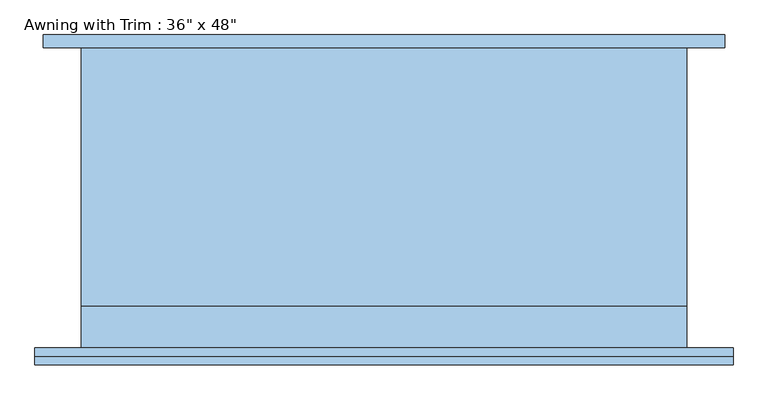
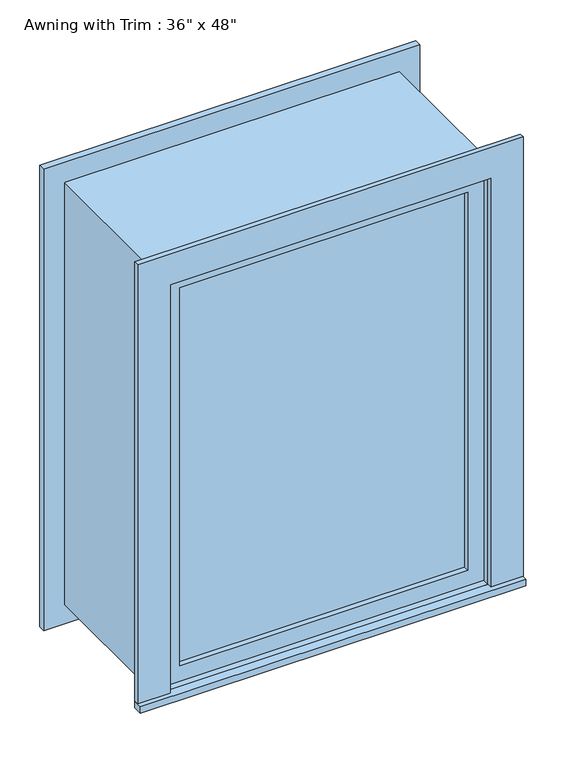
"""IFC4 building model written with IfcOpenShell, lengths in millimetres: window geometry."""

from ifc_helpers import new_model, si_unit, frame, origin, place, context, project, spatial, polyline, outline, extrude, source, transform, mapped, element, save


def window_29cdd4cc(model_context):
    return source(origin(), model_context, "Body", "SweptSolid", [
        extrude(outline(polyline([(-527.05, -252.4125), (-527.05, -227.0125), (527.05, -227.0125), (527.05, -252.4125), (-527.05, -252.4125)])), frame((0.0, 0.0, 914.4), z_axis=(0.0, 0.0, 1.0), x_axis=(1.0, 0.0, 0.0)), (0.0, 0.0, 1.0), 19.05),
        extrude(outline(polyline([(2114.55, -438.15), (2114.55, 438.15), (933.45, 438.15), (933.45, 527.05), (2203.45, 527.05), (2203.45, -527.05), (933.45, -527.05), (933.45, -438.15), (2114.55, -438.15)])), frame((0.0, -239.7125, 0.0), z_axis=(0.0, 1.0, 0.0), x_axis=(0.0, 0.0, 1.0)), (0.0, 0.0, 1.0), 12.7),
        extrude(outline(polyline([(2190.75, 514.35), (2190.75, -514.35), (857.25, -514.35), (857.25, 514.35), (2190.75, 514.35)]), holes=[polyline([(2101.85, 425.45), (946.15, 425.45), (946.15, -425.45), (2101.85, -425.45), (2101.85, 425.45)])]), frame((0.0, 227.0125, 0.0), z_axis=(0.0, 1.0, 0.0), x_axis=(0.0, 0.0, 1.0)), (0.0, 0.0, 1.0), 19.05),
        extrude(outline(polyline([(393.7, -179.3875), (393.7, -192.0875), (-393.7, -192.0875), (-393.7, -179.3875), (393.7, -179.3875)])), frame((0.0, 0.0, 977.9), z_axis=(0.0, 0.0, 1.0), x_axis=(1.0, 0.0, 0.0)), (0.0, 0.0, 1.0), 1092.2),
        extrude(outline(polyline([(2114.55, -438.15), (933.45, -438.15), (933.45, 438.15), (2114.55, 438.15), (2114.55, -438.15)]), holes=[polyline([(2070.1, -393.7), (2070.1, 393.7), (977.9, 393.7), (977.9, -393.7), (2070.1, -393.7)])]), frame((0.0, -207.9625, 0.0), z_axis=(0.0, 1.0, 0.0), x_axis=(0.0, 0.0, 1.0)), (0.0, 0.0, 1.0), 44.45),
        extrude(outline(polyline([(2133.6, -457.2), (914.4, -457.2), (914.4, 457.2), (2133.6, 457.2), (2133.6, -457.2)]), holes=[polyline([(2101.85, -425.45), (2101.85, 425.45), (946.15, 425.45), (946.15, -425.45), (2101.85, -425.45)])]), frame((0.0, -163.5125, 0.0), z_axis=(0.0, 1.0, 0.0), x_axis=(0.0, 0.0, 1.0)), (0.0, 0.0, 1.0), 390.525),
        extrude(outline(polyline([(2133.6, 457.2), (2133.6, -457.2), (914.4, -457.2), (914.4, 457.2), (2133.6, 457.2)]), holes=[polyline([(2114.55, 438.15), (933.45, 438.15), (933.45, -438.15), (2114.55, -438.15), (2114.55, 438.15)])]), frame((0.0, -227.0125, 0.0), z_axis=(0.0, 1.0, 0.0), x_axis=(0.0, 0.0, 1.0)), (0.0, 0.0, 1.0), 63.5),
    ])


if __name__ == "__main__":
    model = new_model("IFC4")
    model_context = context("Model", 3, world=origin())
    ifc_project = project(units=[si_unit("LENGTHUNIT", "METRE", prefix="MILLI")], contexts=[model_context])
    site = spatial("IfcSite", under=ifc_project)
    building = spatial("IfcBuilding", under=site)
    placement = place(None, origin())
    window_shape = window_29cdd4cc(model_context)
    element("IfcWindow", 1, ObjectType="Awning with Trim : 36\" x 48\"", at=placement, inside=building, context=model_context, shape_type="MappedRepresentation", body=[
        mapped(window_shape, transform((0.0, 0.0, 0.0), x_axis=(1.0, 0.0, 0.0), y_axis=(0.0, 1.0, 0.0), z_axis=(0.0, 0.0, 1.0))),
    ])
    save(model, "model.ifc")
